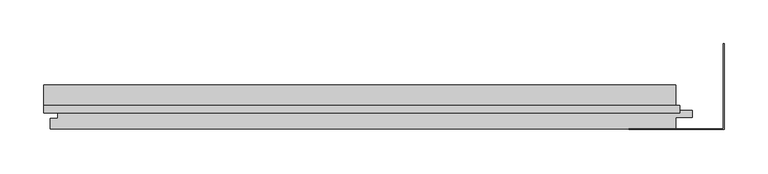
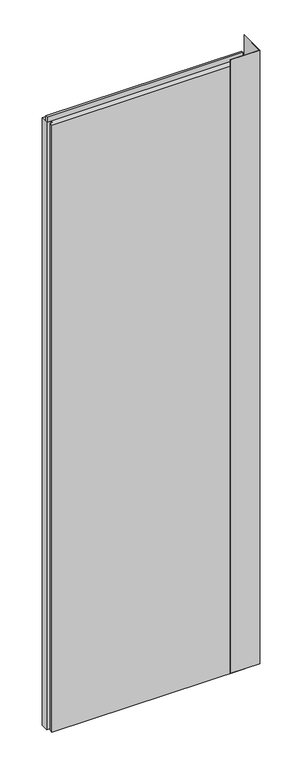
"""IFC4 building model written with IfcOpenShell, lengths in millimetres: plate geometry, Trimo_Qbiss Screen_Normal Panel-VERTICAL : HR - FB."""

from ifc_helpers import new_model, si_unit, frame, origin, place, context, project, spatial, polyline, outline, extrude, source, transform, mapped, element, save


def plate_a7fa4fb5(model_context):
    return source(origin(), model_context, "Body", "SweptSolid", [
        extrude(outline(polyline([(349.0, 76.0), (349.0, 173.0), (349.8, 173.0), (349.8, 75.2), (241.0, 75.2), (241.0, 76.0), (349.0, 76.0)])), frame((0.0, 0.0, 12.5), z_axis=(0.0, 0.0, 1.0), x_axis=(1.0, 0.0, 0.0)), (0.0, 0.0, 1.0), 2400.0),
        extrude(outline(polyline([(-425.0, 93.9), (-425.0, 102.6), (299.0, 102.6), (299.0, 93.9), (-425.0, 93.9)])), frame((0.0, 0.0, 2390.5), z_axis=(0.0, 0.0, 1.0), x_axis=(1.0, 0.0, 0.0)), (0.0, 0.0, 1.0), 19.0),
        extrude(outline(polyline([(295.0, 97.0), (313.5, 97.0), (313.5, 89.0), (295.0, 89.0), (295.0, 76.0), (-418.0, 76.0), (-418.0, 88.0), (-409.5, 88.0), (-409.5, 98.0), (-425.0, 98.0), (-425.0, 126.0), (295.0, 126.0), (295.0, 97.0)])), frame((0.0, 0.0, 12.5), z_axis=(0.0, 0.0, 1.0), x_axis=(1.0, 0.0, 0.0)), (0.0, 0.0, 1.0), 2375.0),
    ])


if __name__ == "__main__":
    model = new_model("IFC4")
    model_context = context("Model", 3, world=origin())
    ifc_project = project(units=[si_unit("LENGTHUNIT", "METRE", prefix="MILLI")], contexts=[model_context])
    site = spatial("IfcSite", under=ifc_project)
    building = spatial("IfcBuilding", under=site)
    placement = place(None, origin())
    plate_shape = plate_a7fa4fb5(model_context)
    element("IfcPlate", 1, ObjectType="Trimo_Qbiss Screen_Normal Panel-VERTICAL : HR - FB", at=placement, inside=building, context=model_context, shape_type="MappedRepresentation", body=[
        mapped(plate_shape, transform((0.0, 0.0, 0.0), x_axis=(1.0, 0.0, 0.0), y_axis=(0.0, 1.0, 0.0), z_axis=(0.0, 0.0, 1.0))),
    ])
    save(model, "model.ifc")
